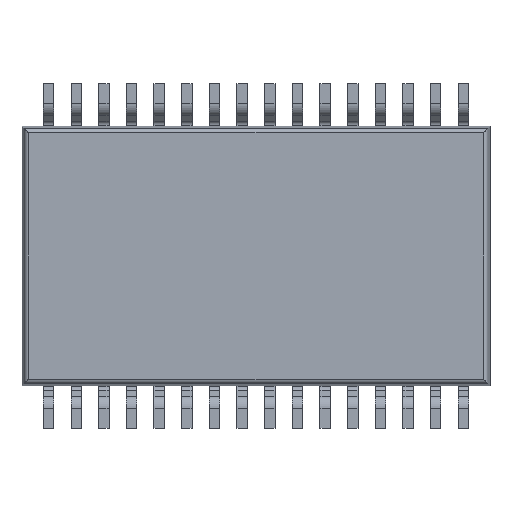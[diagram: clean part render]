
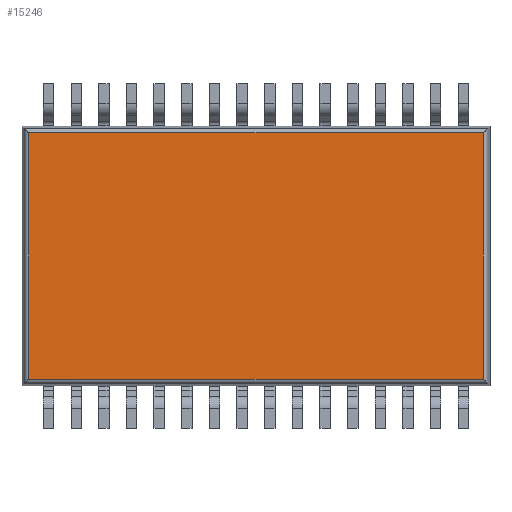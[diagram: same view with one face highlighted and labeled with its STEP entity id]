
A CAD part, front view. The second image highlights one B-rep face of the part: STEP entity #15246.
In plain terms, the highlighted planar face has unit normal (0, -1, 0).
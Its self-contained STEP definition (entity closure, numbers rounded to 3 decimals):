
#15207 = CARTESIAN_POINT ( 'NONE',  ( 5.346, 0.05, -2.896 ) ) ;
#15208 = VERTEX_POINT ( 'NONE', #15207 ) ;
#15209 = CARTESIAN_POINT ( 'NONE',  ( 5.346, 0.05, 2.896 ) ) ;
#15210 = VERTEX_POINT ( 'NONE', #15209 ) ;
#15211 = CARTESIAN_POINT ( 'NONE',  ( 5.346, 0.05, 0. ) ) ;
#15212 = DIRECTION ( 'NONE',  ( 0., 0., 1. ) ) ;
#15213 = VECTOR ( 'NONE', #15212, 1000. ) ;
#15214 = LINE ( 'NONE', #15211, #15213 ) ;
#15215 = EDGE_CURVE ( 'NONE', #15208, #15210, #15214, .T. ) ;
#15216 = ORIENTED_EDGE ( 'NONE', *, *, #15215, .T. ) ;
#15217 = CARTESIAN_POINT ( 'NONE',  ( -5.346, 0.05, 2.896 ) ) ;
#15218 = VERTEX_POINT ( 'NONE', #15217 ) ;
#15219 = CARTESIAN_POINT ( 'NONE',  ( 0., 0.05, 2.896 ) ) ;
#15220 = DIRECTION ( 'NONE',  ( -1., 0., 0. ) ) ;
#15221 = VECTOR ( 'NONE', #15220, 1000. ) ;
#15222 = LINE ( 'NONE', #15219, #15221 ) ;
#15223 = EDGE_CURVE ( 'NONE', #15210, #15218, #15222, .T. ) ;
#15224 = ORIENTED_EDGE ( 'NONE', *, *, #15223, .T. ) ;
#15225 = CARTESIAN_POINT ( 'NONE',  ( -5.346, 0.05, -2.896 ) ) ;
#15226 = VERTEX_POINT ( 'NONE', #15225 ) ;
#15227 = CARTESIAN_POINT ( 'NONE',  ( -5.346, 0.05, 0. ) ) ;
#15228 = DIRECTION ( 'NONE',  ( 0., 0., -1. ) ) ;
#15229 = VECTOR ( 'NONE', #15228, 1000. ) ;
#15230 = LINE ( 'NONE', #15227, #15229 ) ;
#15231 = EDGE_CURVE ( 'NONE', #15218, #15226, #15230, .T. ) ;
#15232 = ORIENTED_EDGE ( 'NONE', *, *, #15231, .T. ) ;
#15233 = CARTESIAN_POINT ( 'NONE',  ( 0., 0.05, -2.896 ) ) ;
#15234 = DIRECTION ( 'NONE',  ( 1., 0., 0. ) ) ;
#15235 = VECTOR ( 'NONE', #15234, 1000. ) ;
#15236 = LINE ( 'NONE', #15233, #15235 ) ;
#15237 = EDGE_CURVE ( 'NONE', #15226, #15208, #15236, .T. ) ;
#15238 = ORIENTED_EDGE ( 'NONE', *, *, #15237, .T. ) ;
#15239 = EDGE_LOOP ( 'NONE', ( #15216, #15224, #15232, #15238 ) ) ;
#15240 = FACE_OUTER_BOUND ( 'NONE', #15239, .T. ) ;
#15241 = CARTESIAN_POINT ( 'NONE',  ( 0., 0.05, 0. ) ) ;
#15242 = DIRECTION ( 'NONE',  ( 0., -1., 0. ) ) ;
#15243 = DIRECTION ( 'NONE',  ( 0., 0., -1. ) ) ;
#15244 = AXIS2_PLACEMENT_3D ( 'NONE', #15241, #15242, #15243 ) ;
#15245 = PLANE ( 'NONE', #15244 ) ;
#15246 = ADVANCED_FACE ( 'NONE', ( #15240 ), #15245, .T. ) ;
